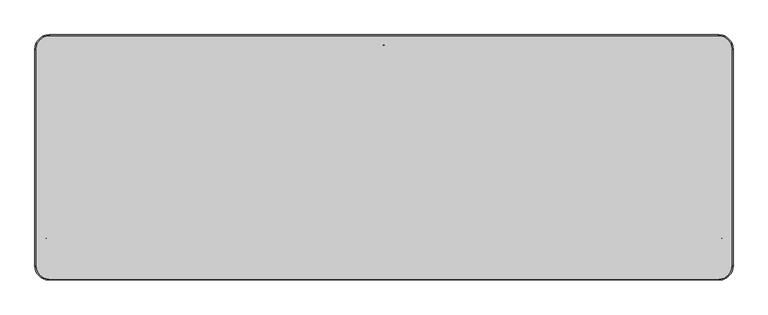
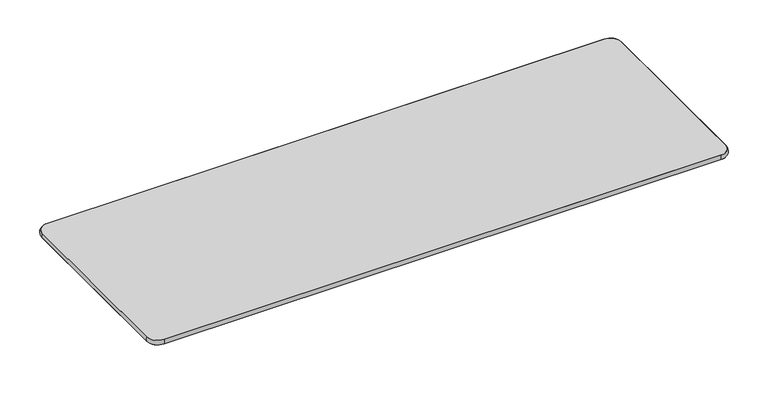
"""IFC4 building model written with IfcOpenShell, lengths in millimetres: furniture geometry, Mesa para refeitório : Mesa para refeitório 220x77cm cód 70476.6."""

import ifcopenshell
import ifcopenshell.guid

model = None  # the IFC model being written
_history = None  # IfcOwnerHistory: only IFC2X3 demands one
_inside = {}  # id of a spatial element -> (the spatial element, [elements in it])
_under = {}  # id of a project, library or spatial element -> (it, [spatial elements below it])
_declared = {}  # id of a project -> (the project, [libraries it declares])
_typed = {}  # id of a type object -> (the type object, [elements of that type])
_made_of = {}  # id of a material, layer set ... -> (it, [elements and type objects made of it])


def new_model(schema):
    """Start an empty IFC model of exactly this schema.

    Asked for "IFC4X3", IfcOpenShell would pick the latest addendum, in which some entities
    have other attributes; the version numbers below select the first issue.
    IFC2X3 requires an IfcOwnerHistory on every rooted entity: one is made here for all.
    """
    global model, _history
    if schema == "IFC4X3":
        model = ifcopenshell.file(schema_version=(4, 3, 0, 0))
    else:
        model = ifcopenshell.file(schema=schema)
    _inside.clear()
    _under.clear()
    _declared.clear()
    _typed.clear()
    _made_of.clear()
    _history = None
    if model.schema == "IFC2X3":
        org = make("IfcOrganization", Name="unknown")
        user = make(
            "IfcPersonAndOrganization",
            ThePerson=make("IfcPerson", FamilyName="unknown"),
            TheOrganization=org,
        )
        app = make(
            "IfcApplication",
            ApplicationDeveloper=org,
            Version="unknown",
            ApplicationFullName="unknown",
            ApplicationIdentifier="unknown",
        )
        _history = make(
            "IfcOwnerHistory",
            OwningUser=user,
            OwningApplication=app,
            ChangeAction="ADDED",
            CreationDate=0,
        )
    return model


def make(cls, **values):
    """One entity of the class cls with the attributes given. An attribute that is None is left unset."""
    return model.create_entity(
        cls, **{name: value for name, value in values.items() if value is not None}
    )


def rooted(cls, **values):
    """An entity with a GlobalId (a new one), such as an element, a storey or a relation."""
    return make(cls, GlobalId=ifcopenshell.guid.new(), OwnerHistory=_history, **values)


def si_unit(unit_type, name, prefix=None):
    """IfcSIUnit, for example si_unit("LENGTHUNIT", "METRE", prefix="MILLI")."""
    return make("IfcSIUnit", UnitType=unit_type, Prefix=prefix, Name=name)


def assignment(units):
    """IfcUnitAssignment: the units of a project."""
    return None if units is None else make("IfcUnitAssignment", Units=units)


def point(xyz):
    """IfcCartesianPoint."""
    return None if xyz is None else make("IfcCartesianPoint", Coordinates=xyz)


def direction(xyz):
    """IfcDirection."""
    return None if xyz is None else make("IfcDirection", DirectionRatios=xyz)


def frame(location, z_axis=None, x_axis=None):
    """IfcAxis2Placement3D, a coordinate frame: its origin and axes. An axis left out is left unset."""
    return make(
        "IfcAxis2Placement3D",
        Location=point(location),
        Axis=direction(z_axis),
        RefDirection=direction(x_axis),
    )


def frame_2d(location, x_axis=None):
    """IfcAxis2Placement2D, a coordinate frame in the plane: its origin and x axis."""
    return make(
        "IfcAxis2Placement2D", Location=point(location), RefDirection=direction(x_axis)
    )


def origin():
    """The frame at (0, 0, 0) with its axes left unset."""
    return frame((0.0, 0.0, 0.0))


def place(relative_to, where):
    """IfcLocalPlacement: puts the frame where relative to a parent placement (None: the world)."""
    return make(
        "IfcLocalPlacement", PlacementRelTo=relative_to, RelativePlacement=where
    )


def context(
    kind, dimensions, precision=None, world=None, true_north=None, identifier=None
):
    """IfcGeometricRepresentationContext, for example the 3D "Model" context."""
    return make(
        "IfcGeometricRepresentationContext",
        ContextIdentifier=identifier,
        ContextType=kind,
        CoordinateSpaceDimension=dimensions,
        Precision=precision,
        WorldCoordinateSystem=world,
        TrueNorth=true_north,
    )


def project(units=None, contexts=None):
    """IfcProject with its units and contexts."""
    return rooted(
        "IfcProject",
        Name="project",
        RepresentationContexts=contexts,
        UnitsInContext=assignment(units),
    )


def spatial(cls, under=None, at=None, **own):
    """A site, building, storey or space (cls), placed at a placement, below another one or the project."""
    s = rooted(cls, ObjectPlacement=at, **own)
    if under is not None:
        _under.setdefault(under.id(), (under, []))[1].append(s)
    return s


def polyline(points):
    """IfcPolyline through the points."""
    return make("IfcPolyline", Points=[point(p) for p in points])


def circle_curve(where, radius):
    """IfcCircle in the frame where."""
    return make("IfcCircle", Position=where, Radius=radius)


def ellipse_curve(where, semi_axis1, semi_axis2):
    """IfcEllipse in the frame where."""
    return make(
        "IfcEllipse", Position=where, SemiAxis1=semi_axis1, SemiAxis2=semi_axis2
    )


def trimmed(basis, trim1, trim2, sense, master):
    """IfcTrimmedCurve: the piece of a basis curve between two trims."""
    return make(
        "IfcTrimmedCurve",
        BasisCurve=basis,
        Trim1=trim1,
        Trim2=trim2,
        SenseAgreement=sense,
        MasterRepresentation=master,
    )


def segment(curve, same_sense, transition):
    """IfcCompositeCurveSegment."""
    return make(
        "IfcCompositeCurveSegment",
        Transition=transition,
        SameSense=same_sense,
        ParentCurve=curve,
    )


def composite_curve(segments, self_intersect=None):
    """IfcCompositeCurve: segments joined end to end."""
    return make("IfcCompositeCurve", Segments=segments, SelfIntersect=self_intersect)


def outline(outer, holes=None, kind="AREA"):
    """IfcArbitraryClosedProfileDef: a profile drawn as a closed curve; with holes, ...WithVoids."""
    if holes is None:
        return make("IfcArbitraryClosedProfileDef", ProfileType=kind, OuterCurve=outer)
    return make(
        "IfcArbitraryProfileDefWithVoids",
        ProfileType=kind,
        OuterCurve=outer,
        InnerCurves=holes,
    )


def extrude(swept, where, along, depth):
    """IfcExtrudedAreaSolid: the profile swept, set in the frame where, extruded along a direction by depth."""
    return make(
        "IfcExtrudedAreaSolid",
        SweptArea=swept,
        Position=where,
        ExtrudedDirection=direction(along),
        Depth=depth,
    )


def shape(context_of_items, identifier, shape_type, items):
    """IfcShapeRepresentation: the items that make up one representation, for example the "Body"."""
    return make(
        "IfcShapeRepresentation",
        ContextOfItems=context_of_items,
        RepresentationIdentifier=identifier,
        RepresentationType=shape_type,
        Items=items,
    )


def source(mapping_origin, context_of_items, identifier, shape_type, items):
    """IfcRepresentationMap: a shape defined once, which mapped items show again and again."""
    return make(
        "IfcRepresentationMap",
        MappingOrigin=mapping_origin,
        MappedRepresentation=shape(context_of_items, identifier, shape_type, items),
    )


def transform(
    local_origin,
    x_axis=None,
    y_axis=None,
    z_axis=None,
    scale=None,
    scale2=None,
    scale3=None,
    uniform=True,
):
    """IfcCartesianTransformationOperator3D, or its non-uniform kind. x_axis, y_axis, z_axis: its Axis1, 2, 3."""
    if uniform:
        return make(
            "IfcCartesianTransformationOperator3D",
            Axis1=direction(x_axis),
            Axis2=direction(y_axis),
            LocalOrigin=point(local_origin),
            Scale=scale,
            Axis3=direction(z_axis),
        )
    return make(
        "IfcCartesianTransformationOperator3DnonUniform",
        Axis1=direction(x_axis),
        Axis2=direction(y_axis),
        LocalOrigin=point(local_origin),
        Scale=scale,
        Axis3=direction(z_axis),
        Scale2=scale2,
        Scale3=scale3,
    )


def mapped(mapping_source, mapping_target):
    """IfcMappedItem: shows the shape of a source again, moved by a transform."""
    return make(
        "IfcMappedItem", MappingSource=mapping_source, MappingTarget=mapping_target
    )


def made_of(thing, what):
    """Note that an element or type object is made of a material, layer set ...; save() writes the relation."""
    if what is not None:
        _made_of.setdefault(what.id(), (what, []))[1].append(thing)
    return thing


def element(
    cls,
    number,
    at=None,
    inside=None,
    cuts=None,
    type_object=None,
    material=None,
    context=None,
    identifier="Body",
    shape_type=None,
    held_by="IfcProductDefinitionShape",
    body=None,
    shapes=None,
    **own,
):
    """One element of the class cls, such as IfcWall. Its Tag is "e" and its number.

    at: its placement. inside: the storey or other place that contains it. cuts: it is an
    opening in that element (IfcRelVoidsElement). A single representation is given by context,
    identifier, shape_type and body (its items); several are given by shapes. held_by: the class
    of the entity that holds the representations. save() writes the other relations.
    """
    e = rooted(cls, Tag="e%d" % number, ObjectPlacement=at, **own)
    if body is not None:
        shapes = [shape(context, identifier, shape_type, body)]
    if shapes is not None:
        e.Representation = make(held_by, Representations=shapes)
    if inside is not None:
        _inside.setdefault(inside.id(), (inside, []))[1].append(e)
    if cuts is not None:
        rooted(
            "IfcRelVoidsElement", RelatingBuildingElement=cuts, RelatedOpeningElement=e
        )
    if type_object is not None:
        _typed.setdefault(type_object.id(), (type_object, []))[1].append(e)
    return made_of(e, material)


def aggregate(whole, parts):
    """IfcRelAggregates: a whole, such as a stair, and the parts it consists of."""
    return rooted("IfcRelAggregates", RelatingObject=whole, RelatedObjects=parts)


def save(model, path):
    """Write the relations noted so far, then the file.

    IfcRelAggregates (storeys below a building ...), IfcRelContainedInSpatialStructure (elements
    in a storey), IfcRelDefinesByType, IfcRelAssociatesMaterial and IfcRelDeclares: one each for
    every whole, place, type object, material and project.
    """
    for whole, parts in _under.values():
        aggregate(whole, parts)
    for where, things in _inside.values():
        rooted(
            "IfcRelContainedInSpatialStructure",
            RelatedElements=things,
            RelatingStructure=where,
        )
    for kind, things in _typed.values():
        rooted("IfcRelDefinesByType", RelatedObjects=things, RelatingType=kind)
    for what, things in _made_of.values():
        rooted("IfcRelAssociatesMaterial", RelatedObjects=things, RelatingMaterial=what)
    for by, libraries in _declared.values():
        rooted("IfcRelDeclares", RelatingContext=by, RelatedDefinitions=libraries)
    model.write(path)


def plane_surface(at):
    """IfcPlane: the flat surface through the origin of the frame at, square to its z axis."""
    return make("IfcPlane", Position=at)


def cylinder_surface(at, radius):
    """IfcCylindricalSurface: all points at the distance radius from the z axis of the frame at."""
    return make("IfcCylindricalSurface", Position=at, Radius=radius)


def revolved_surface(curve, axis_point, axis_direction):
    """IfcSurfaceOfRevolution: the curve turned about the line through axis_point along axis_direction."""
    return make(
        "IfcSurfaceOfRevolution",
        SweptCurve=make("IfcArbitraryOpenProfileDef", ProfileType="CURVE", Curve=curve),
        AxisPosition=make("IfcAxis1Placement", Location=point(axis_point), Axis=direction(axis_direction)),
    )


def advanced_brep(points, edges, surfaces, faces):
    """IfcAdvancedBrep: a solid bounded by faces that lie on surfaces and meet in shared edges.

    An edge is (start, end): straight between two places in points (the first is 0);
    or (start, end, curve); or (start, end, curve, False) where it runs against its curve.
    A face is (place in surfaces, loops), or (place, loops, False) where it looks against
    its surface's normal. A loop lists edges by number (the first is 1), with a minus sign
    where the edge is run from its end to its start. The first loop is the outer one.
    """
    corners = [point(p) for p in points]
    vertices = [make("IfcVertexPoint", VertexGeometry=c) for c in corners]
    made = []
    for start, end, *more in edges:
        made.append(
            make(
                "IfcEdgeCurve",
                EdgeStart=vertices[start],
                EdgeEnd=vertices[end],
                EdgeGeometry=more[0] if more else make("IfcPolyline", Points=[corners[start], corners[end]]),
                SameSense=more[1] if len(more) > 1 else True,
            )
        )
    hull = []
    for where, loops, *sense in faces:
        bounds = []
        for j, loop in enumerate(loops):
            ring = [make("IfcOrientedEdge", EdgeElement=made[abs(k) - 1], Orientation=k > 0) for k in loop]
            bounds.append(
                make(
                    "IfcFaceOuterBound" if j == 0 else "IfcFaceBound",
                    Bound=make("IfcEdgeLoop", EdgeList=ring),
                    Orientation=True,
                )
            )
        hull.append(make("IfcAdvancedFace", Bounds=bounds, FaceSurface=surfaces[where], SameSense=sense[0] if sense else True))
    return make("IfcAdvancedBrep", Outer=make("IfcClosedShell", CfsFaces=hull))


def furniture_eb693cab(model_context):
    return source(origin(), model_context, "Body", "SolidModel", [
        extrude(outline(composite_curve([segment(polyline([(-1005.6618953, 127.5875081), (-1024.3872851, 127.5875081), (-1082.9451635, 331.803099)]), True, "CONTINUOUS"), segment(trimmed(circle_curve(frame_2d((-1078.138855, 333.1812858)), 5.0), [point((-1082.9451635, 331.803099))], [point((-1079.5170418, 337.9875943))], False, "CARTESIAN"), True, "CONTINUOUS"), segment(polyline([(-1079.5170418, 337.9875943), (-1067.0206397, 341.5708799), (-1005.6618953, 127.5875081)]), True, "CONTINUOUS")], self_intersect=False)), frame((0.0, 0.0, 740.0), z_axis=(0.0, 0.0, 1.0), x_axis=(1.0, 0.0, 0.0)), (0.0, 0.0, 1.0), 2.0),
        extrude(outline(composite_curve([segment(polyline([(-1005.6618953, -127.5875081), (-1067.0206397, -341.5708799), (-1079.5170418, -337.9875943)]), True, "CONTINUOUS"), segment(trimmed(circle_curve(frame_2d((-1078.138855, -333.1812858)), 5.0), [point((-1079.5170418, -337.9875943))], [point((-1082.9451635, -331.803099))], False, "CARTESIAN"), True, "CONTINUOUS"), segment(polyline([(-1082.9451635, -331.803099), (-1024.3872851, -127.5875081), (-1005.6618953, -127.5875081)]), True, "CONTINUOUS")], self_intersect=False)), frame((0.0, 0.0, 740.0), z_axis=(0.0, 0.0, 1.0), x_axis=(1.0, 0.0, 0.0)), (0.0, 0.0, 1.0), 2.0),
        extrude(outline(composite_curve([segment(polyline([(1005.6618953, 127.5875081), (1067.0206397, 341.5708799), (1079.5170418, 337.9875943)]), True, "CONTINUOUS"), segment(trimmed(circle_curve(frame_2d((1078.138855, 333.1812858)), 5.0), [point((1079.5170418, 337.9875943))], [point((1082.9451635, 331.803099))], False, "CARTESIAN"), True, "CONTINUOUS"), segment(polyline([(1082.9451635, 331.803099), (1024.3872851, 127.5875081), (1005.6618953, 127.5875081)]), True, "CONTINUOUS")], self_intersect=False)), frame((0.0, 0.0, 740.0), z_axis=(0.0, 0.0, 1.0), x_axis=(1.0, 0.0, 0.0)), (0.0, 0.0, 1.0), 2.0),
        extrude(outline(composite_curve([segment(polyline([(1005.6618953, -127.5875081), (1024.3872851, -127.5875081), (1082.9451635, -331.803099)]), True, "CONTINUOUS"), segment(trimmed(circle_curve(frame_2d((1078.138855, -333.1812858)), 5.0), [point((1082.9451635, -331.803099))], [point((1079.5170418, -337.9875943))], False, "CARTESIAN"), True, "CONTINUOUS"), segment(polyline([(1079.5170418, -337.9875943), (1067.0206397, -341.5708799), (1005.6618953, -127.5875081)]), True, "CONTINUOUS")], self_intersect=False)), frame((0.0, 0.0, 740.0), z_axis=(0.0, 0.0, 1.0), x_axis=(1.0, 0.0, 0.0)), (0.0, 0.0, 1.0), 2.0),
        extrude(outline(composite_curve([segment(polyline([(1005.6618953, -42.5875081), (1023.7270534, -42.5875081), (1023.7270534, -140.8530223)]), True, "CONTINUOUS"), segment(trimmed(circle_curve(frame_2d((1018.7270534, -140.8530223)), 5.0), [point((1023.7270534, -140.8530223))], [point((1018.7270534, -145.8530223))], False, "CARTESIAN"), True, "CONTINUOUS"), segment(polyline([(1018.7270534, -145.8530223), (1005.6618953, -145.8530223), (1005.6618953, -42.5875081)]), True, "CONTINUOUS")], self_intersect=False)), frame((0.0, 0.0, 740.0), z_axis=(0.0, 0.0, 1.0), x_axis=(1.0, 0.0, 0.0)), (0.0, 0.0, 1.0), 2.0),
        extrude(outline(polyline([(-999.6955742, 28.681337), (-999.6955742, -28.681337), (-1001.5529394, -28.1300623), (-1001.5529394, 28.1300623), (-999.6955742, 28.681337)])), frame((0.0, 0.0, 682.0), z_axis=(0.0, 0.0, 1.0), x_axis=(1.0, 0.0, 0.0)), (0.0, 0.0, 1.0), 60.0),
        extrude(outline(composite_curve([segment(polyline([(-60.1181829, 0.0), (0.0, 0.0), (0.0, -229.4943371)]), True, "CONTINUOUS"), segment(trimmed(circle_curve(frame_2d((-8.0489664, -229.4943371)), 8.0489664), [point((0.0, -229.4943371))], [point((-15.3438074, -232.8959773))], False, "CARTESIAN"), True, "CONTINUOUS"), segment(polyline([(-15.3438074, -232.8959773), (-60.1181829, 0.0)]), True, "CONTINUOUS")], self_intersect=False)), frame((-999.6955742, -28.681337, 742.0), z_axis=(-0.961261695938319, 0.2756373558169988, 0.0), x_axis=(0.0, 0.0, 1.0)), (0.0, 0.0, 1.0), 1.932216),
        extrude(outline(composite_curve([segment(polyline([(60.1181829, 0.0), (15.3438074, -232.8959773)]), True, "CONTINUOUS"), segment(trimmed(circle_curve(frame_2d((8.0489664, -229.4943371)), 8.0489664), [point((15.3438074, -232.8959773))], [point((0.0, -229.4943371))], False, "CARTESIAN"), True, "CONTINUOUS"), segment(polyline([(0.0, -229.4943371), (0.0, 0.0), (60.1181829, 0.0)]), True, "CONTINUOUS")], self_intersect=False)), frame((1001.5162894, 28.1300623, 742.0), z_axis=(-0.961261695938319, 0.2756373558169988, 0.0), x_axis=(0.0, 0.0, -1.0)), (0.0, 0.0, 1.0), 2.0),
        extrude(outline(polyline([(999.593766, 28.681337), (1001.5162894, 28.1300623), (1001.5162894, -28.1300623), (999.593766, -28.681337), (999.593766, 28.681337)])), frame((0.0, 0.0, 682.0), z_axis=(0.0, 0.0, 1.0), x_axis=(1.0, 0.0, 0.0)), (0.0, 0.0, 1.0), 60.0),
        extrude(outline(composite_curve([segment(polyline([(-2.0, -20.0), (-2.0, -351.247878), (-15.0, -351.247878)]), True, "CONTINUOUS"), segment(trimmed(circle_curve(frame_2d((-15.0, -346.247878)), 5.0), [point((-15.0, -351.247878))], [point((-20.0, -346.247878))], False, "CARTESIAN"), True, "CONTINUOUS"), segment(polyline([(-20.0, -346.247878), (-20.0, -20.0), (-2.0, -20.0)]), True, "CONTINUOUS")], self_intersect=False)), frame((0.0, 0.0, 740.0), z_axis=(0.0, 0.0, 1.0), x_axis=(1.0, 0.0, 0.0)), (0.0, 0.0, 1.0), 2.0),
        extrude(outline(composite_curve([segment(polyline([(-20.0, 683.2373612), (-351.247878, 726.6561926)]), True, "CONTINUOUS"), segment(trimmed(circle_curve(frame_2d((-347.8462378, 733.9510336)), 8.0489664), [point((-351.247878, 726.6561926))], [point((-347.8462378, 742.0))], False, "CARTESIAN"), True, "CONTINUOUS"), segment(polyline([(-347.8462378, 742.0), (-20.0, 742.0), (-20.0, 683.2373612)]), True, "CONTINUOUS")], self_intersect=False)), frame((-2.0, 0.0, 0.0), z_axis=(1.0, 0.0, 0.0), x_axis=(0.0, 1.0, 0.0)), (0.0, 0.0, 1.0), 2.0),
        extrude(outline(composite_curve([segment(polyline([(0.0, 0.0), (237.1608757, 0.0)]), True, "CONTINUOUS"), segment(trimmed(circle_curve(frame_2d((235.1976245, -7.8058636)), 8.0489664), [point((237.1608757, 0.0))], [point((236.7172151, -15.7100843))], False, "CARTESIAN"), True, "CONTINUOUS"), segment(polyline([(236.7172151, -15.7100843), (11.3499079, -59.0370689), (0.0, 0.0)]), True, "CONTINUOUS")], self_intersect=False)), frame((999.593766, -28.681337, 681.8818171), z_axis=(0.9612616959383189, 0.27563735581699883, 0.0), x_axis=(0.2706805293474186, -0.943975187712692, 0.1887932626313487)), (0.0, 0.0, 1.0), 2.0),
        extrude(outline(composite_curve([segment(polyline([(-2.0, 20.0), (-20.0, 20.0), (-20.0, 346.247878)]), True, "CONTINUOUS"), segment(trimmed(circle_curve(frame_2d((-15.0, 346.247878)), 5.0), [point((-20.0, 346.247878))], [point((-15.0, 351.247878))], False, "CARTESIAN"), True, "CONTINUOUS"), segment(polyline([(-15.0, 351.247878), (-2.0, 351.247878), (-2.0, 20.0)]), True, "CONTINUOUS")], self_intersect=False)), frame((0.0, 0.0, 740.0), z_axis=(0.0, 0.0, 1.0), x_axis=(1.0, 0.0, 0.0)), (0.0, 0.0, 1.0), 2.0),
        extrude(outline(composite_curve([segment(polyline([(20.0, 683.2373612), (20.0, 742.0), (347.8462378, 742.0)]), True, "CONTINUOUS"), segment(trimmed(circle_curve(frame_2d((347.8462378, 733.9510336)), 8.0489664), [point((347.8462378, 742.0))], [point((351.247878, 726.6561926))], False, "CARTESIAN"), True, "CONTINUOUS"), segment(polyline([(351.247878, 726.6561926), (20.0, 683.2373612)]), True, "CONTINUOUS")], self_intersect=False)), frame((-2.0, 0.0, 0.0), z_axis=(1.0, 0.0, 0.0), x_axis=(0.0, 1.0, 0.0)), (0.0, 0.0, 1.0), 2.0),
        extrude(outline(polyline([(1000.0651581, -20.0), (-1000.0651581, -20.0), (-1000.0651581, 20.0), (1000.0651581, 20.0), (1000.0651581, -20.0)])), frame((0.0, 0.0, 682.0), z_axis=(0.0, 0.0, 1.0), x_axis=(1.0, 0.0, 0.0)), (0.0, 0.0, 1.0), 60.0),
        advanced_brep(
        [(1100.0, -343.1259063, 760.0), (1058.1259063, -385.0, 760.0), (1058.1259063, -385.0, 742.0), (1100.0, -343.1259063, 742.0), (1100.0, 343.1259063, 742.0), (1100.0, 343.1259063, 760.0), (1058.1259063, 385.0, 760.0), (1058.1259063, 385.0, 742.0), (-1058.2277145, 385.0, 742.0), (-1058.2277145, 385.0, 760.0), (-1100.0, 343.2277145, 760.0), (-1100.0, 343.2277145, 742.0), (-1100.0, -343.2277145, 742.0), (-1100.0, -343.2277145, 760.0), (-1058.2277145, -385.0, 760.0), (-1058.2277145, -385.0, 742.0)],
        [
            (0, 1, circle_curve(frame((1058.1259063, -343.1259063, 760.0), z_axis=(0.0, 0.0, -1.0), x_axis=(0.0, -1.0, 0.0)), 41.8740937)),
            (1, 2, circle_curve(frame((1058.1259063, -371.6032084, 751.0), z_axis=(1.0, 0.0, 0.0), x_axis=(0.0, 1.0, 0.0)), 16.1392077)),
            (2, 3, circle_curve(frame((1058.1259063, -343.1259063, 742.0), z_axis=(0.0, 0.0, 1.0), x_axis=(0.0, -1.0, 0.0)), 41.8740937)),
            (3, 0, circle_curve(frame((1086.6032084, -343.1259063, 751.0), z_axis=(0.0, -1.0, 0.0), x_axis=(-1.0, 0.0, 0.0)), 16.1392077)),
            (2, 1),
            (0, 3),
            (3, 4),
            (4, 5, circle_curve(frame((1086.6032084, 343.1259063, 751.0), z_axis=(0.0, -1.0, 0.0), x_axis=(-1.0, 0.0, 0.0)), 16.1392077)),
            (5, 0),
            (5, 4),
            (6, 5, circle_curve(frame((1058.1259063, 343.1259063, 760.0), z_axis=(0.0, 0.0, -1.0), x_axis=(1.0, 0.0, 0.0)), 41.8740937)),
            (4, 7, circle_curve(frame((1058.1259063, 343.1259063, 742.0), z_axis=(0.0, 0.0, 1.0), x_axis=(1.0, 0.0, 0.0)), 41.8740937)),
            (7, 6, circle_curve(frame((1058.1259063, 371.6032084, 751.0), z_axis=(1.0, 0.0, 0.0), x_axis=(0.0, -1.0, 0.0)), 16.1392077)),
            (6, 7),
            (7, 8),
            (8, 9, circle_curve(frame((-1058.2277145, 371.6032084, 751.0), z_axis=(1.0, 0.0, 0.0), x_axis=(0.0, -1.0, 0.0)), 16.1392077)),
            (9, 6),
            (9, 8),
            (10, 9, circle_curve(frame((-1058.2277145, 343.2277145, 760.0), z_axis=(0.0, 0.0, -1.0), x_axis=(0.0, 1.0, 0.0)), 41.7722855)),
            (8, 11, circle_curve(frame((-1058.2277145, 343.2277145, 742.0), z_axis=(0.0, 0.0, 1.0), x_axis=(0.0, 1.0, 0.0)), 41.7722855)),
            (11, 10, circle_curve(frame((-1086.6032084, 343.2277145, 751.0), z_axis=(0.0, 1.0, 0.0), x_axis=(1.0, 0.0, 0.0)), 16.1392077)),
            (10, 11),
            (11, 12),
            (12, 13, circle_curve(frame((-1086.6032084, -343.2277145, 751.0), z_axis=(0.0, 1.0, 0.0), x_axis=(1.0, 0.0, 0.0)), 16.1392077)),
            (13, 10),
            (13, 12),
            (14, 13, circle_curve(frame((-1058.2277145, -343.2277145, 760.0), z_axis=(0.0, 0.0, -1.0), x_axis=(-1.0, 0.0, 0.0)), 41.7722855)),
            (12, 15, circle_curve(frame((-1058.2277145, -343.2277145, 742.0), z_axis=(0.0, 0.0, 1.0), x_axis=(-1.0, 0.0, 0.0)), 41.7722855)),
            (15, 14, circle_curve(frame((-1058.2277145, -371.6032084, 751.0), z_axis=(-1.0, 0.0, 0.0), x_axis=(0.0, 1.0, 0.0)), 16.1392077)),
            (14, 15),
            (15, 2),
            (1, 14),
        ],
        [
            revolved_surface(trimmed(ellipse_curve(frame((1058.1259063, -371.6032084, 751.0), z_axis=(-1.0, 0.0, 0.0), x_axis=(0.0, 1.0, 0.0)), 16.1392077, 16.1392077), [point((1058.1259063, -385.0, 742.0))], [point((1058.1259063, -385.0, 760.0))], True, "CARTESIAN"), (1058.1259063, -343.1259063, 760.0), (0.0, 0.0, 1.0)),
            revolved_surface(polyline([(1058.1259063, -385.0, 760.0), (1058.1259063, -385.0, 742.0)]), (1058.1259063, -343.1259063, 760.0), (0.0, 0.0, 1.0)),
            cylinder_surface(frame((1086.6032084, -343.1259063, 751.0), z_axis=(0.0, -1.0, 0.0), x_axis=(-1.0, 0.0, 0.0)), 16.1392077),
            plane_surface(frame((1100.0, -343.1259063, 760.0), z_axis=(-1.0, 0.0, 0.0), x_axis=(0.0, 1.0, 0.0))),
            revolved_surface(trimmed(ellipse_curve(frame((1086.6032084, 343.1259063, 751.0), z_axis=(0.0, -1.0, 0.0), x_axis=(-1.0, 0.0, 0.0)), 16.1392077, 16.1392077), [point((1100.0, 343.1259063, 742.0))], [point((1100.0, 343.1259063, 760.0))], True, "CARTESIAN"), (1058.1259063, 343.1259063, 760.0), (0.0, 0.0, 1.0)),
            revolved_surface(polyline([(1100.0, 343.1259063, 760.0), (1100.0, 343.1259063, 742.0)]), (1058.1259063, 343.1259063, 760.0), (0.0, 0.0, 1.0)),
            cylinder_surface(frame((1058.1259063, 371.6032084, 751.0), z_axis=(1.0, 0.0, 0.0), x_axis=(0.0, -1.0, 0.0)), 16.1392077),
            plane_surface(frame((1058.1259063, 385.0, 760.0), z_axis=(0.0, -1.0, 0.0), x_axis=(-1.0, 0.0, 0.0))),
            revolved_surface(trimmed(ellipse_curve(frame((-1058.2277145, 371.6032084, 751.0), z_axis=(1.0, 0.0, 0.0), x_axis=(0.0, -1.0, 0.0)), 16.1392077, 16.1392077), [point((-1058.2277145, 385.0, 742.0))], [point((-1058.2277145, 385.0, 760.0))], True, "CARTESIAN"), (-1058.2277145, 343.2277145, 760.0), (0.0, 0.0, 1.0)),
            revolved_surface(polyline([(-1058.2277145, 385.0, 760.0), (-1058.2277145, 385.0, 742.0)]), (-1058.2277145, 343.2277145, 760.0), (0.0, 0.0, 1.0)),
            cylinder_surface(frame((-1086.6032084, 343.2277145, 751.0), z_axis=(0.0, 1.0, 0.0), x_axis=(1.0, 0.0, 0.0)), 16.1392077),
            plane_surface(frame((-1100.0, 343.2277145, 760.0), z_axis=(1.0, 0.0, 0.0), x_axis=(0.0, -1.0, 0.0))),
            revolved_surface(trimmed(ellipse_curve(frame((-1086.6032084, -343.2277145, 751.0), z_axis=(0.0, 1.0, 0.0), x_axis=(1.0, 0.0, 0.0)), 16.1392077, 16.1392077), [point((-1100.0, -343.2277145, 742.0))], [point((-1100.0, -343.2277145, 760.0))], True, "CARTESIAN"), (-1058.2277145, -343.2277145, 760.0), (0.0, 0.0, 1.0)),
            revolved_surface(polyline([(-1100.0, -343.2277145, 760.0), (-1100.0, -343.2277145, 742.0)]), (-1058.2277145, -343.2277145, 760.0), (0.0, 0.0, 1.0)),
            cylinder_surface(frame((-1058.2277145, -371.6032084, 751.0), z_axis=(-1.0, 0.0, 0.0), x_axis=(0.0, 1.0, 0.0)), 16.1392077),
            plane_surface(frame((-1058.2277145, -385.0, 760.0), z_axis=(0.0, 1.0, 0.0), x_axis=(1.0, 0.0, 0.0))),
        ],
        [
            (0, [[1, 2, 3, 4]]),
            (1, [[-3, 5, -1, 6]]),
            (2, [[-4, 7, 8, 9]]),
            (3, [[-6, -9, 10, -7]]),
            (4, [[11, -8, 12, 13]]),
            (5, [[-12, -10, -11, 14]]),
            (6, [[-13, 15, 16, 17]]),
            (7, [[-14, -17, 18, -15]]),
            (8, [[19, -16, 20, 21]]),
            (9, [[-20, -18, -19, 22]]),
            (10, [[-21, 23, 24, 25]]),
            (11, [[-22, -25, 26, -23]]),
            (12, [[27, -24, 28, 29]]),
            (13, [[-28, -26, -27, 30]]),
            (14, [[-29, 31, -2, 32]]),
            (15, [[-30, -32, -5, -31]]),
        ],
    ),
        extrude(outline(composite_curve([segment(trimmed(circle_curve(frame_2d((1058.1259063, 343.1259063)), 41.8740937), [point((1058.1259063, 385.0))], [point((1100.0, 343.1259063))], False, "CARTESIAN"), True, "CONTINUOUS"), segment(polyline([(1100.0, 343.1259063), (1100.0, -343.1259063)]), True, "CONTINUOUS"), segment(trimmed(circle_curve(frame_2d((1058.1259063, -343.1259063)), 41.8740937), [point((1100.0, -343.1259063))], [point((1058.1259063, -385.0))], False, "CARTESIAN"), True, "CONTINUOUS"), segment(polyline([(1058.1259063, -385.0), (-1058.2277145, -385.0)]), True, "CONTINUOUS"), segment(trimmed(circle_curve(frame_2d((-1058.2277145, -343.2277145)), 41.7722855), [point((-1058.2277145, -385.0))], [point((-1100.0, -343.2277145))], False, "CARTESIAN"), True, "CONTINUOUS"), segment(polyline([(-1100.0, -343.2277145), (-1100.0, 343.2277145)]), True, "CONTINUOUS"), segment(trimmed(circle_curve(frame_2d((-1058.2277145, 343.2277145)), 41.7722855), [point((-1100.0, 343.2277145))], [point((-1058.2277145, 385.0))], False, "CARTESIAN"), True, "CONTINUOUS"), segment(polyline([(-1058.2277145, 385.0), (1058.1259063, 385.0)]), True, "CONTINUOUS")], self_intersect=False)), frame((0.0, 0.0, 742.0), z_axis=(0.0, 0.0, 1.0), x_axis=(1.0, 0.0, 0.0)), (0.0, 0.0, 1.0), 18.0),
    ])


if __name__ == "__main__":
    model = new_model("IFC4")
    model_context = context("Model", 3, world=origin())
    ifc_project = project(units=[si_unit("LENGTHUNIT", "METRE", prefix="MILLI")], contexts=[model_context])
    site = spatial("IfcSite", under=ifc_project)
    building = spatial("IfcBuilding", under=site)
    placement = place(None, origin())
    furniture_shape = furniture_eb693cab(model_context)
    element("IfcFurniture", 1, ObjectType="Mesa para refeitório : Mesa para refeitório 220x77cm cód 70476.6", at=placement, inside=building, context=model_context, shape_type="MappedRepresentation", body=[
        mapped(furniture_shape, transform((0.0, 0.0, 0.0), x_axis=(1.0, 0.0, 0.0), y_axis=(0.0, 1.0, 0.0), z_axis=(0.0, 0.0, 1.0))),
    ])
    save(model, "model.ifc")
